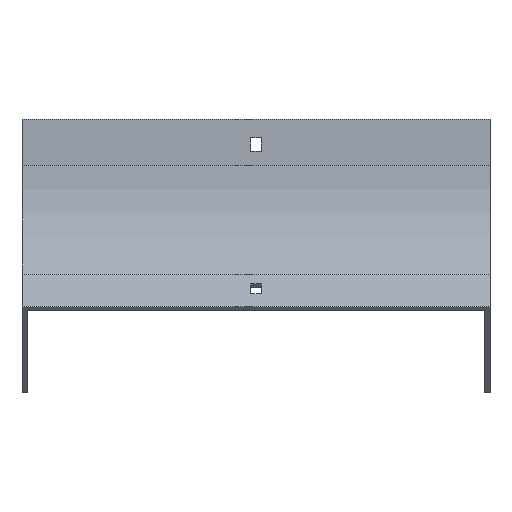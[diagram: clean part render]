
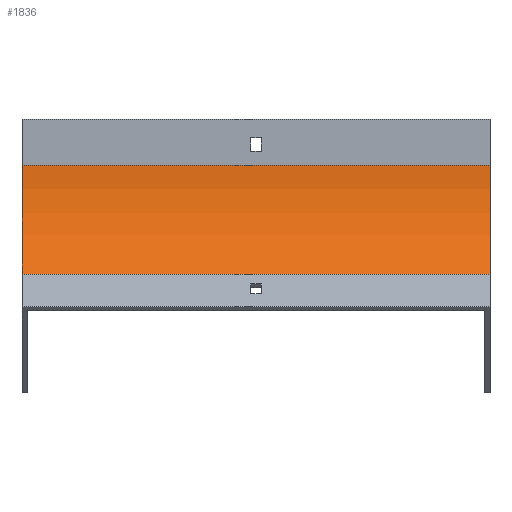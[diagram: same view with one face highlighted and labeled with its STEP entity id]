
A CAD part, front view. The second image highlights one B-rep face of the part: STEP entity #1836.
In plain terms, the highlighted cylindrical face has radius 100 mm (diameter 200 mm), a partial arc.
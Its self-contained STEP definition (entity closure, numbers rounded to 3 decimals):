
#41 = LINE ( 'NONE', #1545, #821 ) ;
#214 = ORIENTED_EDGE ( 'NONE', *, *, #1692, .T. ) ;
#277 = CARTESIAN_POINT ( 'NONE',  ( 152., -29.289, -100.711 ) ) ;
#377 = EDGE_CURVE ( 'NONE', #1364, #1064, #1832, .T. ) ;
#423 = CARTESIAN_POINT ( 'NONE',  ( 152., -29.289, -100.711 ) ) ;
#426 = VERTEX_POINT ( 'NONE', #277 ) ;
#428 = DIRECTION ( 'NONE',  ( -1., 0., 0. ) ) ;
#437 = CARTESIAN_POINT ( 'NONE',  ( -152., -100., -30. ) ) ;
#464 = ORIENTED_EDGE ( 'NONE', *, *, #723, .F. ) ;
#521 = DIRECTION ( 'NONE',  ( -1., 0., 0. ) ) ;
#595 = DIRECTION ( 'NONE',  ( 0., 0., 1. ) ) ;
#701 = ORIENTED_EDGE ( 'NONE', *, *, #712, .F. ) ;
#712 = EDGE_CURVE ( 'NONE', #426, #1064, #1806, .T. ) ;
#723 = EDGE_CURVE ( 'NONE', #1612, #426, #931, .T. ) ;
#738 = DIRECTION ( 'NONE',  ( 0., 0., 1. ) ) ;
#821 = VECTOR ( 'NONE', #521, 1000. ) ;
#901 = CARTESIAN_POINT ( 'NONE',  ( -152., 0., -30. ) ) ;
#931 = CIRCLE ( 'NONE', #1581, 100. ) ;
#980 = AXIS2_PLACEMENT_3D ( 'NONE', #437, #428, #595 ) ;
#1010 = DIRECTION ( 'NONE',  ( -1., 0., 0. ) ) ;
#1033 = DIRECTION ( 'NONE',  ( -1., 0., 0. ) ) ;
#1064 = VERTEX_POINT ( 'NONE', #1559 ) ;
#1121 = FACE_OUTER_BOUND ( 'NONE', #1920, .T. ) ;
#1226 = CARTESIAN_POINT ( 'NONE',  ( 152., 0., -30. ) ) ;
#1364 = VERTEX_POINT ( 'NONE', #901 ) ;
#1425 = DIRECTION ( 'NONE',  ( -1., 0., 0. ) ) ;
#1427 = VECTOR ( 'NONE', #1033, 1000. ) ;
#1545 = CARTESIAN_POINT ( 'NONE',  ( 152., 0., -30. ) ) ;
#1559 = CARTESIAN_POINT ( 'NONE',  ( -152., -29.289, -100.711 ) ) ;
#1581 = AXIS2_PLACEMENT_3D ( 'NONE', #1939, #1010, #738 ) ;
#1612 = VERTEX_POINT ( 'NONE', #1226 ) ;
#1692 = EDGE_CURVE ( 'NONE', #1612, #1364, #41, .T. ) ;
#1719 = CYLINDRICAL_SURFACE ( 'NONE', #1901, 100. ) ;
#1806 = LINE ( 'NONE', #423, #1427 ) ;
#1832 = CIRCLE ( 'NONE', #980, 100. ) ;
#1836 = ADVANCED_FACE ( 'NONE', ( #1121 ), #1719, .F. ) ;
#1881 = CARTESIAN_POINT ( 'NONE',  ( 152., -100., -30. ) ) ;
#1889 = ORIENTED_EDGE ( 'NONE', *, *, #377, .T. ) ;
#1899 = DIRECTION ( 'NONE',  ( 0., 0., 1. ) ) ;
#1901 = AXIS2_PLACEMENT_3D ( 'NONE', #1881, #1425, #1899 ) ;
#1920 = EDGE_LOOP ( 'NONE', ( #1889, #701, #464, #214 ) ) ;
#1939 = CARTESIAN_POINT ( 'NONE',  ( 152., -100., -30. ) ) ;
